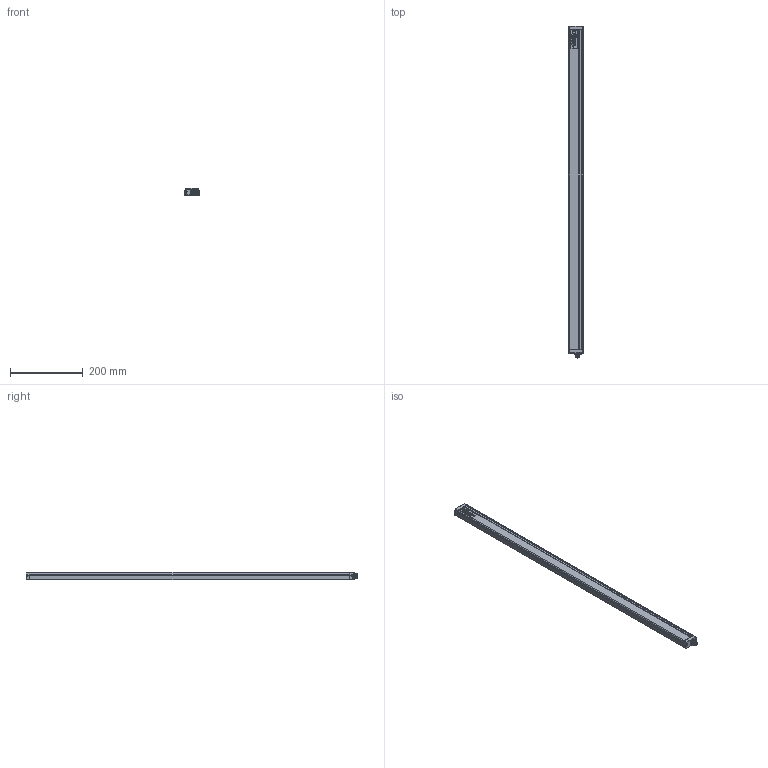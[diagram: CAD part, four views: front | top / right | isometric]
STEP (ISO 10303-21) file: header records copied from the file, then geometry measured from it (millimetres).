
FILE_DESCRIPTION(/* description */ (''),/* implementation_level */ '2;1');
FILE_NAME(/* name */ 'C:\Users\andre\SynologyDrive\Optoscan\Libreria Componenti\00 - Barriere\Barriera sorgente\Argo_880_RX.stp',/* time_stamp */ '2021-04-22T11:57:59+02:00',/* author */ ('andre'),/* organization */ (''),/* preprocessor_version */ 'ST-DEVELOPER v18',/* originating_system */ 'Autodesk Inventor 2020',/* authorisation */ '');
FILE_SCHEMA (('AUTOMOTIVE_DESIGN { 1 0 10303 214 3 1 1 }'));
Length unit declared in the file: millimetre
Products named in the file (1): Argo_880_RX
Bounding box: 40.5 x 913.3 x 20.75 mm (x, y, z)
Volume: 182686.6 mm3; surface area: 238841.8 mm2
Topology: 1 solids, 1 shells, 692 faces, 1898 edges, 1217 vertices
Faces by surface type: plane 319, cylinder 195, bspline 94, torus 70, cone 8, sphere 6
Full cylindrical faces by diameter (mm): 1 x4, 2.459 x4, 2.5 x4, 3 x4, 3.5 x4, 5.5 x4, 8 x1, 10.5 x2, 11.75 x9, 15.7 x1, 17.5 x1
Entity records: 28165 total; most frequent: CARTESIAN_POINT 10195, ORIENTED_EDGE 3778, DIRECTION 3387, EDGE_CURVE 1889, VERTEX_POINT 1217, AXIS2_PLACEMENT_3D 1183, LINE 1021, VECTOR 1021
